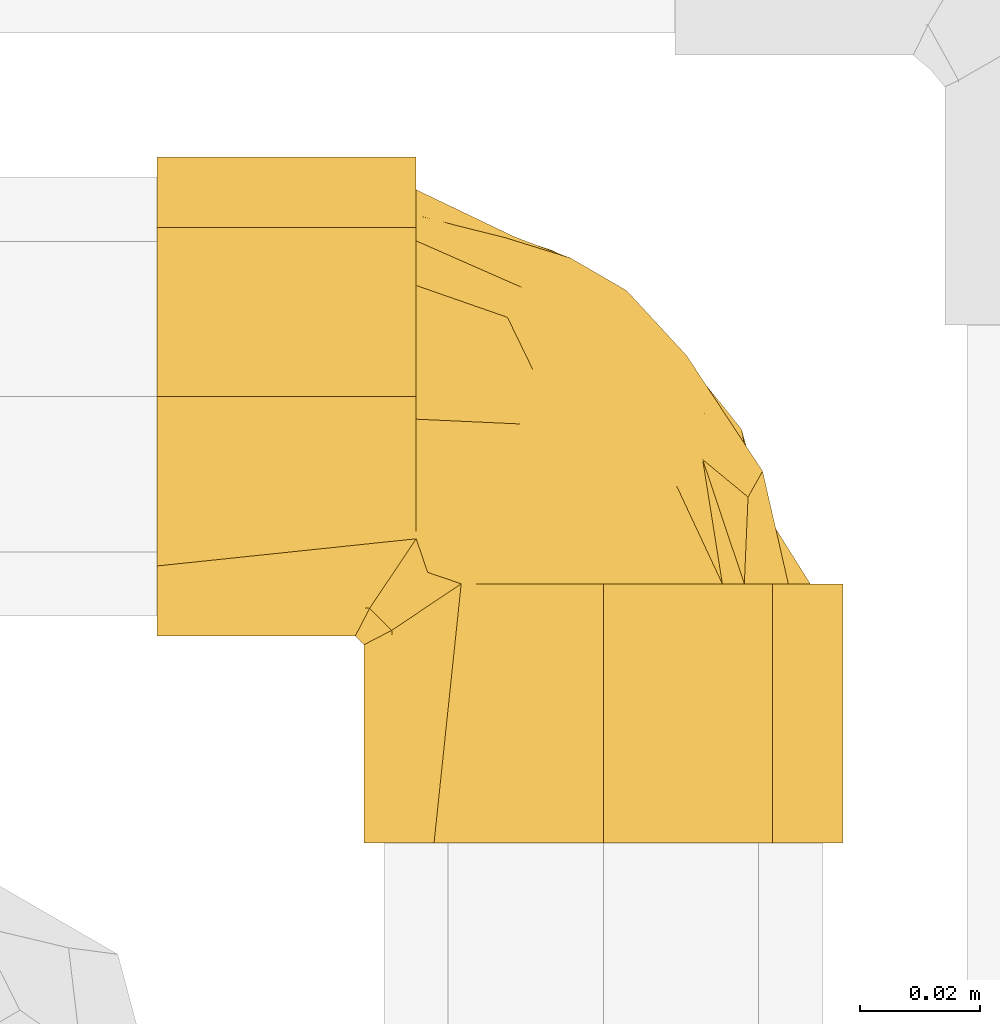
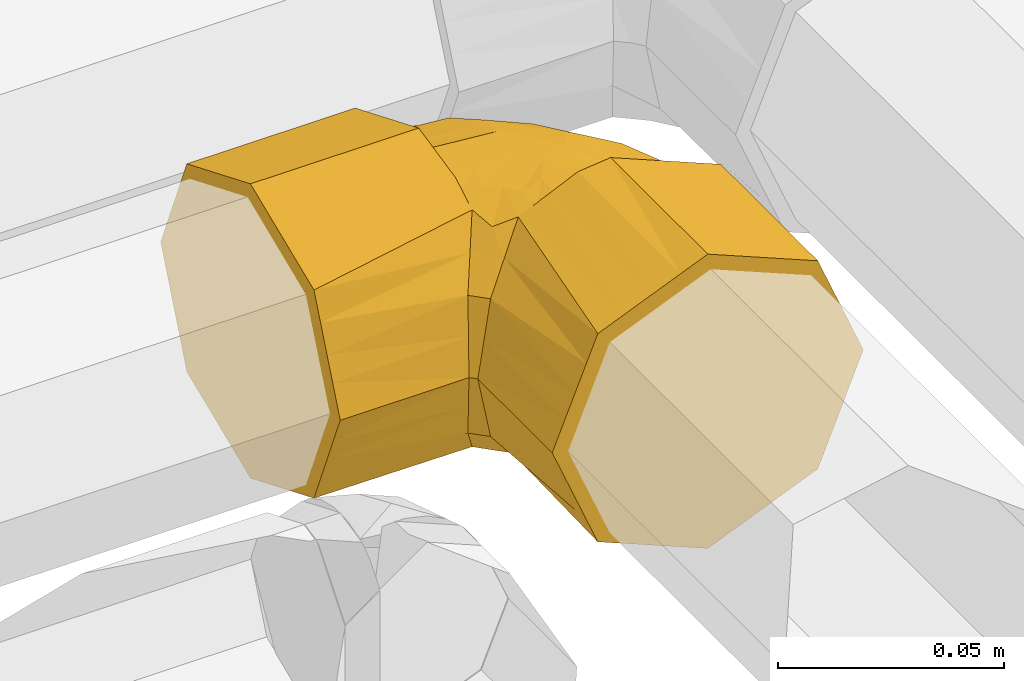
# One storey, part 187 of 652: 1 covering.
"""IFC2X3 building model written with IfcOpenShell, lengths in millimetres."""

from ifc_helpers import new_model, entity, si_unit, converted_unit, direction, frame, origin, place, context, subcontext, project, spatial, faceted_brep, material, type_object, element, save


model = new_model("IFC2X3")

# Units and contexts
model_context = context("Model", 3, precision=0.01, world=frame((0.0, 0.0, 308426.39999999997)), true_north=direction((6.123233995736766e-17, 1.0)))
plan_context = context("Plan", 3, precision=0.01, world=frame((0.0, 0.0, 308426.39999999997)), true_north=direction((6.123233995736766e-17, 1.0)))
body_context = subcontext(model_context, "Body", "Model", "MODEL_VIEW")
ifc_project = project(units=[si_unit("LENGTHUNIT", "METRE", prefix="MILLI"), si_unit("AREAUNIT", "SQUARE_METRE"), si_unit("VOLUMEUNIT", "CUBIC_METRE"), converted_unit("PLANEANGLEUNIT", "DEGREE", entity("IfcPlaneAngleMeasure", 0.017453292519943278), si_unit("PLANEANGLEUNIT", "RADIAN"), dimensions=[0, 0, 0, 0, 0, 0, 0])], contexts=[model_context, plan_context])

# Site, building, storey
site_placement = place(None, origin())
site = spatial("IfcSite", under=ifc_project, at=site_placement, Name="Default", CompositionType="ELEMENT")
building_placement = place(site_placement, origin())
building = spatial("IfcBuilding", under=site, at=building_placement, CompositionType="ELEMENT")
storey_placement = place(building_placement, frame((0.0, 0.0, 1730.6999999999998)))
storey = spatial("IfcBuildingStorey", under=building, at=storey_placement, Name="EG_Produktion_FFB", CompositionType="ELEMENT", Elevation=1730.6999999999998)

# Covering
ifc_material = material(Name="Dämmung - Armaflex-Schlauch")
covering_type = type_object("IfcCoveringType", Name="Rohrdämmung außen:Armaflex-Schlauch", PredefinedType="INSULATION")
covering_placement = place(storey_placement, frame((72580.91575000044, 40700.91574999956, 2606.306196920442)))
element("IfcCovering", 1, at=covering_placement, inside=storey, type_object=covering_type, material=ifc_material, Name="Rohrdämmung außen:Armaflex-Schlauch", ObjectType="Rohrdämmung außen:Armaflex-Schlauch", PredefinedType="INSULATION", context=body_context, shape_type="Brep", body=[
    faceted_brep([(60.144076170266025, 43.00574999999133, -76.62300673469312), (64.13185283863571, 43.00574999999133, -77.0895182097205), (70.33992920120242, 43.00574999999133, -77.81577223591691), (77.97579246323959, 43.00574999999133, -74.37467999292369), (85.61165572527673, 43.00574999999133, -70.93358774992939), (92.7724816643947, 43.00574999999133, -67.70657048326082), (99.933307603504, 43.00574999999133, -64.47955321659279), (104.18429126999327, 43.00574999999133, -52.91641272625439), (108.43527493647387, 43.00574999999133, -41.353272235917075), (104.78589932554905, 43.00574999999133, -34.139683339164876), (101.13652371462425, 43.00574999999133, -26.926094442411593), (97.4871481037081, 43.00574999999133, -19.712505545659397), (93.83777249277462, 43.00574999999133, -12.498916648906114), (86.4970302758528, 43.00574999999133, -10.122127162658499), (78.41847973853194, 43.00574999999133, -7.50644969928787), (70.33992920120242, 43.00574999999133, -4.8907722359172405), (64.13185283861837, 43.00574999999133, -5.617026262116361), (60.144076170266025, 43.00574999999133, -6.083537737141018), (55.31227974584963, 43.00574999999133, -7.721836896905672), (50.48048332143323, 43.00574999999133, -9.360136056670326), (58.097888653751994, 43.00574999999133, -5.923104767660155), (65.71529398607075, 43.00574999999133, -2.4860734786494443), (74.08425000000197, 43.00574999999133, -1.5952722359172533), (82.08002046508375, 43.00574999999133, -4.907228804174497), (88.14082570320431, 43.00574999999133, -7.41769653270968), (95.16911355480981, 43.00574999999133, -10.328908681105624), (102.19740140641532, 43.00574999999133, -13.240120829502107), (105.10861355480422, 43.00574999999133, -20.268408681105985), (108.01982570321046, 43.00574999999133, -27.29669653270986), (110.93103785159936, 43.00574999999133, -34.3249843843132), (113.84224999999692, 43.00574999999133, -41.353272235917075), (110.53029340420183, 43.00574999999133, -49.34904276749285), (108.01982570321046, 43.00574999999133, -55.40984793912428), (105.10861355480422, 43.00574999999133, -62.43813579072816), (102.19740140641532, 43.00574999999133, -69.46642364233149), (95.16911355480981, 43.00574999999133, -72.37763579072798), (88.14082570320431, 43.00574999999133, -75.28884793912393), (82.0800191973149, 43.00574999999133, -77.79931619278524), (74.08425000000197, 43.00574999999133, -81.11127223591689), (65.90827541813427, 43.00574999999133, -79.3520978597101), (57.732300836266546, 43.00574999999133, -77.59292348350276), (50.48048332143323, 43.00574999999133, -73.34640841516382), (55.31227974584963, 43.00574999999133, -74.98470757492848), (67.05596214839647, 0.0, -4.506484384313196), (60.02767429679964, 0.0, -7.41769653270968), (52.99938644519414, 0.0, -10.328908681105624), (45.971098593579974, 0.0, -13.240120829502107), (43.05988644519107, 0.0, -20.268408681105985), (40.1486742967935, 0.0, -27.29669653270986), (37.63820666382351, 0.0, -33.35750154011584), (34.32624999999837, 0.0, -41.353272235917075), (37.63820598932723, 0.0, -49.349041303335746), (40.1486742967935, 0.0, -55.40984793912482), (43.05988644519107, 0.0, -62.4381357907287), (45.971098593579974, 0.0, -69.46642364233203), (52.99938644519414, 0.0, -72.37763579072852), (60.02767429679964, 0.0, -75.28884793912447), (67.05596214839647, 0.0, -78.20006008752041), (74.08425000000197, 0.0, -81.11127223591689), (81.11253785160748, 0.0, -78.20006008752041), (88.14082570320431, 0.0, -75.28884793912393), (95.16911355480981, 0.0, -72.37763579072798), (102.19740140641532, 0.0, -69.46642364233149), (105.10861355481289, 0.0, -62.43813579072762), (108.01982570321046, 0.0, -55.40984793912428), (110.93103785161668, 0.0, -48.381560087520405), (113.84224999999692, 0.0, -41.353272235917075), (110.93103785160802, 0.0, -34.32498438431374), (108.01982570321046, 0.0, -27.29669653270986), (105.10861355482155, 0.0, -20.268408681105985), (102.19740140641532, 0.0, -13.240120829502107), (90.0757916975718, 0.0, -8.219185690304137), (82.08002084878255, 0.0, -4.907228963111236), (74.08425000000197, 0.0, -1.5952722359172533), (44.71268924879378, 39.14313917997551, -16.05718390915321), (34.32624999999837, 32.88734533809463, -41.353272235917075), (36.63557258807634, 34.08393684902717, -32.05375199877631), (38.94489517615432, 35.280528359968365, -22.754231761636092), (37.79023388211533, 34.68223260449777, -27.403991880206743), (44.71268924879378, 39.14313917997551, -66.64936056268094), (36.63557258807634, 34.08393684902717, -50.652792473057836), (38.94489517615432, 35.280528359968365, -59.95231271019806), (35.39615835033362, 33.44172576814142, -45.66173672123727), (43.00574999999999, 74.08424999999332, -81.11127223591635), (43.00574999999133, 82.08002040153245, -77.79931569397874), (43.00574999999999, 88.14082570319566, -75.28884793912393), (43.00574999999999, 95.16911355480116, -72.37763579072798), (43.00574999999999, 102.19740140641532, -69.46642364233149), (43.00574999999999, 105.10861355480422, -62.43813579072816), (43.00574999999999, 108.01982570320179, -55.40984793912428), (43.00574999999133, 110.53029398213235, -49.34904137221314), (43.00574999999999, 113.84224999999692, -41.353272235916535), (43.00574999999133, 110.53029355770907, -33.357502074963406), (43.00574999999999, 108.01982570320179, -27.29669653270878), (43.00574999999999, 105.10861355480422, -20.26840868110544), (43.00574999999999, 102.19740140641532, -13.240120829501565), (43.00574999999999, 95.16911355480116, -10.328908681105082), (43.00574999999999, 88.14082570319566, -7.417696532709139), (43.00574999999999, 81.11253785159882, -4.506484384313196), (43.00574999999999, 74.08424999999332, -1.595272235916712), (43.00574999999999, 65.90823846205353, -3.3544632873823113), (43.00574999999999, 57.73222692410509, -5.113654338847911), (43.00574999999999, 50.48048332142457, -9.36013605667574), (43.00574999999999, 55.312279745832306, -7.721836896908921), (43.00574999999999, 60.144076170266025, -6.083537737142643), (43.00574999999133, 64.13185213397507, -5.617026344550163), (43.00574999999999, 67.23589066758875, -5.2538992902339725), (43.00574999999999, 70.33992920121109, -4.8907722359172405), (43.00574999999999, 77.73827380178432, -8.224826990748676), (43.00574999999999, 85.13661840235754, -11.558881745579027), (43.00574999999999, 92.53496300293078, -14.89293650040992), (43.00574999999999, 99.93330760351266, -18.226991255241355), (43.00574999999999, 102.05879943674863, -24.008561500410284), (43.00574999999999, 104.18429126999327, -29.790131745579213), (43.00574999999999, 108.43527493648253, -41.353272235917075), (43.00574999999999, 104.78589932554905, -48.566861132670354), (43.00574999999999, 101.13652371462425, -55.78045002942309), (43.00574999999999, 97.48714810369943, -62.99403892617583), (43.00574999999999, 93.83777249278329, -70.20762782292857), (43.00574999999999, 87.96331166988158, -72.10966392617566), (43.00574999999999, 82.08885084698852, -74.01170002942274), (43.00574999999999, 70.33992920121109, -77.81577223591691), (43.00575000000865, 67.23589066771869, -77.45264518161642), (43.00575000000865, 64.13185213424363, -77.08951812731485), (43.00574999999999, 60.144076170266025, -76.62300673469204), (43.00574999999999, 55.31227974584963, -74.9847075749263), (43.00574999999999, 50.48048332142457, -73.34640841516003), (43.00574999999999, 58.097888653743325, -76.78343970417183), (43.00574999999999, 65.71529398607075, -80.22047099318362), (0.0, 81.11253785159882, -4.506484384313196), (0.0, 88.14082570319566, -7.417696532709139), (0.0, 95.16911355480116, -10.328908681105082), (0.0, 102.19740140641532, -13.240120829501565), (0.0, 107.21833667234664, -25.361730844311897), (0.0, 110.53029333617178, -33.357501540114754), (0.0, 113.84224999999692, -41.353272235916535), (0.0, 110.93103785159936, -48.381560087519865), (0.0, 108.01982570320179, -55.40984793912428), (0.0, 105.10861355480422, -62.43813579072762), (0.0, 102.19740140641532, -69.46642364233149), (0.0, 95.16911355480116, -72.37763579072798), (0.0, 88.14082570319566, -75.28884793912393), (0.0, 81.11253785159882, -78.20006008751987), (0.0, 74.08424999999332, -81.11127223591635), (0.0, 67.05596214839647, -78.20006008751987), (0.0, 60.02767429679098, -75.28884793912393), (0.0, 52.99938644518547, -72.37763579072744), (0.0, 45.971098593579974, -69.46642364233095), (0.0, 43.05988644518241, -62.43813579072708), (0.0, 40.14867429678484, -55.40984793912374), (0.0, 37.63820673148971, -49.349043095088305), (0.0, 34.32624999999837, -41.353272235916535), (0.0, 37.63820599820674, -33.35750314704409), (0.0, 40.14867429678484, -27.29669653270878), (0.0, 43.05988644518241, -20.26840868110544), (0.0, 45.971098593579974, -13.240120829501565), (0.0, 52.99938644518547, -10.328908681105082), (0.0, 60.02767429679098, -7.417696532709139), (0.0, 66.08847915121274, -4.907228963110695), (0.0, 74.08424999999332, -1.595272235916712), (32.88734533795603, 34.326249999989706, -41.353272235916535), (34.08393684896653, 36.63557258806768, -32.05375199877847), (35.280528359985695, 38.94489517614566, -22.754231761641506), (33.99610617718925, 36.46606666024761, -32.73634342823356), (39.14313917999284, 44.71268924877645, -16.057183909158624), (39.14313917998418, 44.71268924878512, -66.6493605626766), (34.08393684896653, 36.63557258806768, -50.65279247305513), (35.28052835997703, 38.94489517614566, -59.95231271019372), (33.99610617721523, 36.46606666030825, -49.970201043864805), (33.44172575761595, 35.39615833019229, -45.66173663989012), (58.15798394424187, 87.2456310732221, -12.120840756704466), (86.24095977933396, 59.255379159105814, -11.864597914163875), (75.44074579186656, 64.78568226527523, -8.378054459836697), (63.77170858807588, 54.44461824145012, -4.8907722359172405), (71.00987826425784, 57.53683977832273, -5.704430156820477), (60.331775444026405, 69.54060567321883, -5.8180951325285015), (74.68952203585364, 78.61273076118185, -14.280504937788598), (90.56777273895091, 63.63300022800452, -17.280568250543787), (77.92193606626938, 91.69909945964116, -41.353272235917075), (68.6352314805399, 97.09379966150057, -33.283297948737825), (87.87776584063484, 80.92903244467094, -32.9369904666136), (100.80694021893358, 55.17908736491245, -41.353272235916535), (100.51907102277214, 61.71355754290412, -31.923106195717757), (79.2111421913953, 81.91063946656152, -20.520869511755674), (45.389360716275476, 68.51539346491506, -4.8907722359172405), (47.77297143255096, 66.6908577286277, -4.8907722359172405), (52.54019286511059, 63.04178625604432, -4.8907722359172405), (58.15595072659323, 58.74320224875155, -4.8907722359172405), (60.497283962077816, 92.24225345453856, -17.185615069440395), (90.87485767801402, 71.2421023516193, -23.498480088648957), (98.1023884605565, 57.40923450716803, -22.482436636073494), (69.59848600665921, 92.66510975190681, -24.511662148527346), (81.49627628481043, 84.60868936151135, -26.85277686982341), (60.46384303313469, 100.06718719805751, -41.353272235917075), (59.30685202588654, 100.62176107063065, -41.353272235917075), (93.17860550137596, 67.35242472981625, -41.353272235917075), (89.44118018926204, 73.31662804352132, -41.353272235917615), (85.55027078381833, 79.5257620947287, -41.353272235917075), (57.682944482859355, 100.4981284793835, -26.95482375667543), (62.35315634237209, 78.60346314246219, -8.909390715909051), (98.9382275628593, 58.161189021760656, -41.353272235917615), (67.32420901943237, 48.25776996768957, -4.8907722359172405), (59.547719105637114, 48.611422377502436, -5.540058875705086), (54.28952280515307, 47.904704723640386, -6.751916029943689), (33.63371593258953, 33.6337159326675, -41.353272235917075), (51.45915617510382, 51.4591566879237, -6.670824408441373), (44.908883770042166, 44.908883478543, -11.210836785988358), (47.90470403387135, 54.28952252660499, -6.751916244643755), (48.5166417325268, 59.518701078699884, -5.555021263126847), (59.54771910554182, 48.6114223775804, -77.16648559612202), (67.32420901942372, 48.25776996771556, -77.81577223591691), (44.90888341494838, 44.90888338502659, -71.49570746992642), (51.459155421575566, 51.45915593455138, -76.03571971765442), (54.289522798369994, 47.90470469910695, -75.95462843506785), (58.155950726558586, 58.74320224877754, -77.81577223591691), (47.904704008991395, 54.28952251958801, -75.95462822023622), (48.51664173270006, 59.518701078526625, -77.15152320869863), (47.77297143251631, 66.69085772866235, -77.81577223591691), (63.77170858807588, 54.44461824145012, -77.81577223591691), (45.389360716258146, 68.51539346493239, -77.81577223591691), (52.54019286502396, 63.041786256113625, -77.81577223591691), (77.88884430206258, 59.61186262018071, -74.80598737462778), (85.68390575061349, 58.14792793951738, -71.5622524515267), (57.20212685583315, 76.41301603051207, -75.79919171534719), (85.21783817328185, 83.37405497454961, -50.884712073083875), (76.99963686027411, 79.87091005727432, -65.94296495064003), (68.28685011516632, 74.4438185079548, -73.58946657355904), (64.58632217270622, 86.90253298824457, -68.1076882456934), (64.72447259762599, 66.09863101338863, -76.81449307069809), (73.0393897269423, 55.988582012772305, -76.81985109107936), (85.65544995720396, 67.81026209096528, -67.36791849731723), (75.83338581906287, 86.64625364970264, -60.18508487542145), (65.65295551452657, 98.35278997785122, -51.08904624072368), (60.45142062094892, 96.79734628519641, -60.011099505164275), (57.30670812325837, 83.3350649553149, -73.08709853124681), (95.65270419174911, 64.8027936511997, -58.1379265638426), (86.3305076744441, 74.76137203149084, -61.63866824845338), (94.01862068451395, 55.99524376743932, -65.9723599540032), (97.0320102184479, 68.64794002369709, -49.62375736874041)], [[[0, 1, 2, 3, 4, 5, 6, 7, 8, 9, 10, 11, 12, 13, 14, 15, 16, 17, 18, 19, 20, 21, 22, 23, 24, 25, 26, 27, 28, 29, 30, 31, 32, 33, 34, 35, 36, 37, 38, 39, 40, 41, 42]], [[43, 44, 45, 46, 47, 48, 49, 50, 51, 52, 53, 54, 55, 56, 57, 58, 59, 60, 61, 62, 63, 64, 65, 66, 67, 68, 69, 70, 71, 72, 73]], [[47, 46, 74]], [[75, 50, 49]], [[76, 75, 49]], [[48, 77, 78, 76]], [[47, 74, 77]], [[44, 20, 45]], [[43, 21, 44]], [[46, 19, 74]], [[77, 48, 47]], [[44, 21, 20]], [[43, 22, 21]], [[48, 76, 49]], [[43, 73, 22]], [[45, 20, 19]], [[19, 46, 45]], [[23, 22, 73, 72, 71, 70, 26, 25, 24]], [[26, 70, 69, 68, 67, 66, 30, 29, 28, 27]], [[38, 37, 36, 35, 34, 62, 61, 60, 59, 58]], [[30, 66, 65, 64, 63, 62, 34, 33, 32, 31]], [[56, 40, 39]], [[53, 79, 54]], [[39, 57, 56]], [[41, 55, 54]], [[40, 55, 41]], [[80, 52, 51]], [[52, 80, 81]], [[58, 57, 38]], [[51, 75, 82, 80]], [[38, 57, 39]], [[79, 53, 81]], [[55, 40, 56]], [[51, 50, 75]], [[53, 52, 81]], [[79, 41, 54]], [[83, 84, 85, 86, 87, 88, 89, 90, 91, 92, 93, 94, 95, 96, 97, 98, 99, 100, 101, 102, 103, 104, 105, 106, 107, 108, 109, 110, 111, 112, 113, 114, 115, 116, 117, 118, 119, 120, 121, 122, 123, 124, 125, 126, 127, 128]], [[129, 130, 131, 132, 133, 134, 135, 136, 137, 138, 139, 140, 141, 142, 143, 144, 145, 146, 147, 148, 149, 150, 151, 152, 153, 154, 155, 156, 157, 158, 159]], [[135, 134, 133, 132, 95, 94, 93, 92, 91]], [[95, 132, 131, 130, 129, 159, 99, 98, 97, 96]], [[159, 158, 157, 100]], [[101, 156, 102]], [[99, 159, 100]], [[101, 100, 157]], [[152, 151, 160]], [[102, 156, 155]], [[153, 161, 162]], [[161, 153, 152]], [[152, 160, 163, 161]], [[154, 164, 155]], [[164, 154, 162]], [[156, 101, 157]], [[154, 153, 162]], [[164, 102, 155]], [[148, 147, 165]], [[149, 166, 150]], [[166, 149, 167]], [[160, 151, 150]], [[148, 165, 167]], [[145, 127, 146]], [[144, 128, 145]], [[147, 126, 165]], [[167, 149, 148]], [[145, 128, 127]], [[144, 83, 128]], [[150, 166, 168, 169, 160]], [[144, 143, 83]], [[146, 127, 126]], [[126, 147, 146]], [[91, 90, 89, 88, 87, 139, 138, 137, 136, 135]], [[141, 140, 139, 87, 86, 85, 84, 83, 143, 142]], [[109, 170, 110]], [[13, 171, 172]], [[14, 13, 172]], [[173, 174, 175]], [[176, 171, 177]], [[15, 14, 174]], [[178, 179, 180]], [[9, 181, 182]], [[172, 175, 174]], [[13, 12, 171]], [[12, 11, 177]], [[176, 177, 183]], [[175, 107, 184, 185, 186, 187, 173]], [[188, 170, 176]], [[176, 172, 171]], [[189, 190, 182]], [[11, 10, 190]], [[177, 11, 190]], [[170, 188, 110]], [[191, 183, 192]], [[179, 178, 193, 194]], [[182, 190, 10]], [[182, 195, 180]], [[177, 190, 189]], [[182, 10, 9]], [[180, 195, 196, 197, 178]], [[177, 189, 183]], [[177, 171, 12]], [[113, 179, 194]], [[189, 182, 180]], [[112, 111, 198, 113]], [[198, 111, 188]], [[194, 114, 113]], [[179, 191, 192]], [[199, 175, 172]], [[199, 108, 175]], [[172, 176, 199]], [[188, 111, 110]], [[199, 170, 109]], [[183, 188, 176]], [[108, 199, 109]], [[188, 191, 198]], [[108, 107, 175]], [[176, 170, 199]], [[192, 189, 180]], [[188, 183, 191]], [[189, 192, 183]], [[179, 192, 180]], [[181, 9, 8]], [[182, 181, 200, 195]], [[191, 179, 198]], [[179, 113, 198]], [[174, 173, 201, 15]], [[172, 174, 14]], [[173, 202, 201]], [[173, 187, 203]], [[18, 203, 19]], [[201, 17, 16, 15]], [[204, 76, 163]], [[74, 164, 162, 77]], [[163, 76, 78, 77, 162, 161]], [[205, 102, 206]], [[206, 164, 74]], [[106, 105, 104, 185, 184, 107]], [[205, 207, 102]], [[186, 185, 208, 187]], [[204, 75, 76]], [[163, 160, 204]], [[205, 206, 19]], [[164, 206, 102]], [[203, 205, 19]], [[19, 206, 74]], [[201, 202, 17]], [[17, 202, 18]], [[203, 202, 173]], [[18, 202, 203]], [[102, 207, 103]], [[103, 208, 104]], [[207, 205, 187]], [[208, 103, 207]], [[208, 185, 104]], [[187, 208, 207]], [[203, 187, 205]], [[204, 160, 169]], [[209, 210, 0]], [[169, 168, 166, 167, 81, 80, 82]], [[41, 211, 212]], [[1, 0, 210, 2]], [[213, 212, 214]], [[204, 169, 82]], [[79, 165, 211]], [[126, 125, 215]], [[212, 211, 126]], [[204, 82, 75]], [[167, 165, 79, 81]], [[216, 124, 217]], [[218, 209, 213]], [[122, 121, 219, 217, 124, 123]], [[41, 79, 211]], [[211, 165, 126]], [[209, 0, 42]], [[125, 124, 216]], [[126, 215, 212]], [[125, 216, 215]], [[220, 214, 216, 217]], [[213, 42, 41]], [[212, 213, 41]], [[210, 209, 218]], [[214, 212, 215]], [[209, 42, 213]], [[215, 216, 214]], [[218, 213, 214]], [[4, 221, 222]], [[223, 121, 120]], [[224, 178, 197, 196]], [[225, 226, 227]], [[228, 226, 221]], [[229, 218, 228]], [[222, 226, 230]], [[231, 232, 224]], [[3, 229, 221]], [[233, 232, 231]], [[234, 223, 120]], [[229, 2, 210, 218]], [[224, 235, 236]], [[4, 3, 221]], [[228, 218, 214, 220, 217, 219, 121]], [[237, 222, 230]], [[6, 235, 7]], [[235, 6, 237]], [[238, 200, 7]], [[228, 223, 226]], [[224, 238, 235]], [[234, 226, 223]], [[227, 117, 233]], [[193, 232, 115]], [[224, 232, 178]], [[115, 114, 194, 193]], [[235, 237, 236]], [[238, 224, 196]], [[226, 222, 221]], [[222, 237, 5]], [[5, 237, 6]], [[5, 4, 222]], [[237, 230, 236]], [[7, 200, 181, 8]], [[7, 235, 238]], [[238, 196, 195, 200]], [[227, 118, 117]], [[193, 178, 232]], [[231, 236, 225]], [[233, 117, 116]], [[232, 233, 116]], [[227, 233, 231]], [[229, 3, 2]], [[228, 221, 229]], [[121, 223, 228]], [[119, 118, 234, 120]], [[234, 118, 227]], [[227, 226, 234]], [[232, 116, 115]], [[225, 236, 230]], [[224, 236, 231]], [[226, 225, 230]], [[231, 225, 227]]]),
])

save(model, "model.ifc")
